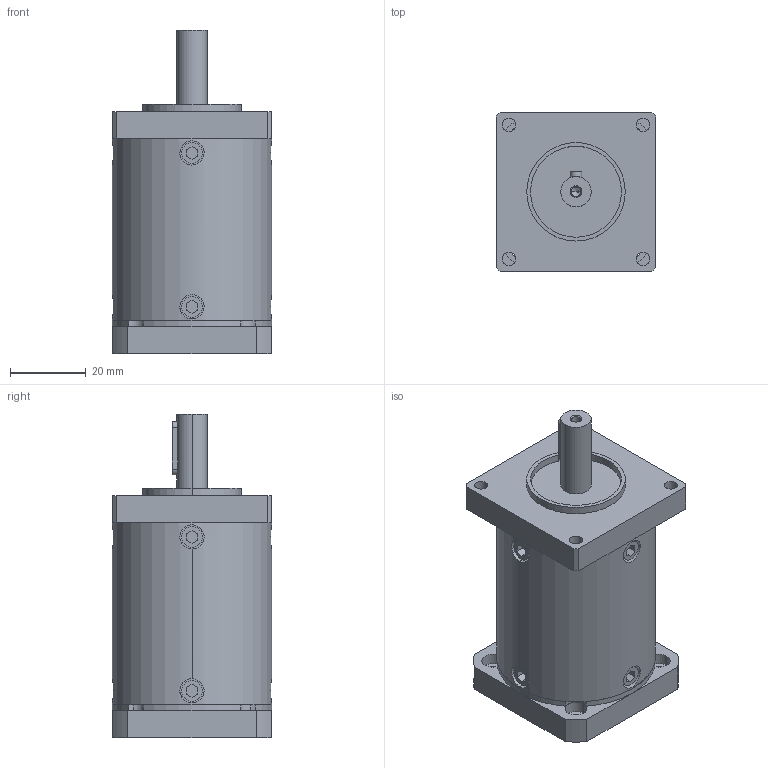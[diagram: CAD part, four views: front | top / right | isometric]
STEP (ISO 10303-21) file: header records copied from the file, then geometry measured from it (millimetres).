
FILE_DESCRIPTION (( 'STEP AP214' ), '1' );
FILE_NAME ('DLF42-L3-( )-J8.step', '2020-11-17T06:00:29', ( 'Moofasta' ), ( '' ), 'SwSTEP 2.0', 'SolidWorks 2020', '' );
FILE_SCHEMA (( 'AUTOMOTIVE_DESIGN' ));
Length unit declared in the file: millimetre
Products named in the file (1): DLF42-L3-(   )-J8
Bounding box: 42 x 42 x 85.4 mm (x, y, z)
Volume: 90681 mm3; surface area: 21781.8 mm2
Topology: 4 solids, 4 shells, 216 faces, 516 edges, 336 vertices
Faces by surface type: plane 106, cylinder 103, cone 7
Entity records: 7015 total; most frequent: CARTESIAN_POINT 1726, DIRECTION 1110, ORIENTED_EDGE 1024, EDGE_CURVE 512, AXIS2_PLACEMENT_3D 408, VERTEX_POINT 336, LINE 294, VECTOR 294
